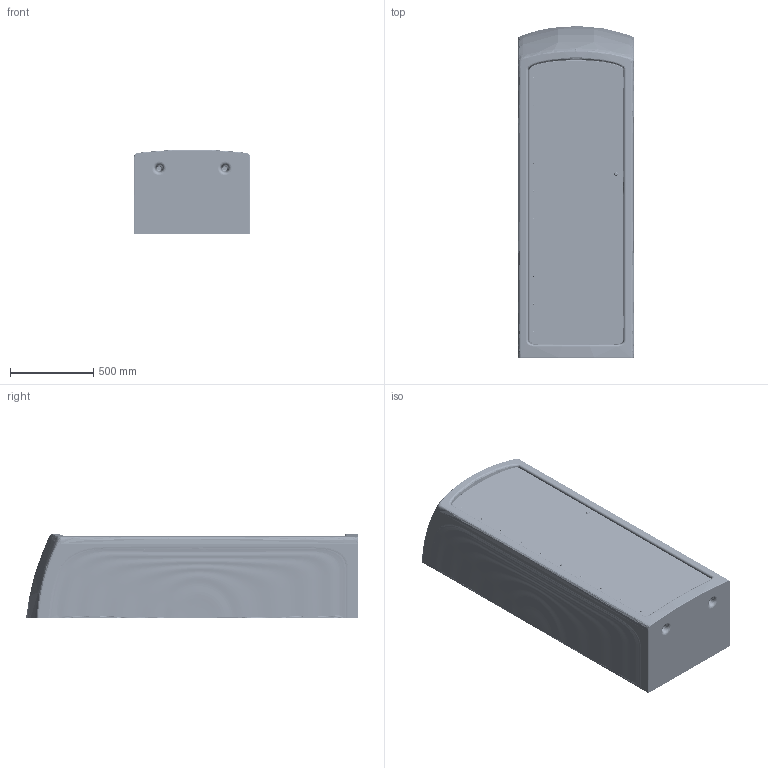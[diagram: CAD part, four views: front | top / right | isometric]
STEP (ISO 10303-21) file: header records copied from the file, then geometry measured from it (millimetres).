
FILE_DESCRIPTION (( 'STEP AP214' ), '1' );
FILE_NAME ('RYNO WARDROBE WITH SGL DOOR.STEP', '2025-04-01T07:23:34', ( '' ), ( '' ), 'SwSTEP 2.0', 'SolidWorks 2024', '' );
FILE_SCHEMA (( 'AUTOMOTIVE_DESIGN' ));
Length unit declared in the file: millimetre
Products named in the file (14): PCPD6474_02 - Full Height Hinge - Part B; Fastenright - M6x12mm Security Torx Barrel; PCPD1448-02_Ryno Large Open Wardrobe & PCPD1450-02_Ryno Large Open Storage - Modular tool_Shelved; IP ONLY - Ryno Wardrobe Door_12mm; Hafele Latch Plate; Fastenright - M6x8mm T30 Security Screw; PCPD6474_02 - Full Height Hinge; Fastenright - M6x25mm T30 Security Screw; PCPD1951_01 - Door Stop Bracket; PCPD6474_02 - Full Height Hinge - Part A; Fastenright - M6 D Insert Nut; RYNO WARDROBE WITH SGL DOOR; Fastenright - No.6x25mm T30 Self Tapping Security Screw; Lowe and Fletcher CAM Lock - 4304_LOCKED
Assembly tree (59 placements, depth 3):
  RYNO WARDROBE WITH SGL DOOR
    PCPD1448-02_Ryno Large Open Wardrobe & PCPD1450-02_Ryno Large Open Storage - Modular tool_Shelved
    PCPD6474_02 - Full Height Hinge
      PCPD6474_02 - Full Height Hinge - Part A
      PCPD6474_02 - Full Height Hinge - Part B
    Hafele Latch Plate
    PCPD1951_01 - Door Stop Bracket  x2
    Lowe and Fletcher CAM Lock - 4304_LOCKED
    Fastenright - M6x12mm Security Torx Barrel  x10
    Fastenright - M6x8mm T30 Security Screw  x10
    Fastenright - M6x25mm T30 Security Screw  x14
    Fastenright - No.6x25mm T30 Self Tapping Security Screw  x2
    Fastenright - M6 D Insert Nut  x14
    IP ONLY - Ryno Wardrobe Door_12mm
Bounding box: 698 x 1999.92 x 510 mm (x, y, z)
Volume: 307360887.9 mm3; surface area: 10538285.3 mm2
Topology: 74 solids, 74 shells, 2710 faces, 6822 edges, 4428 vertices
Faces by surface type: plane 1329, cylinder 817, bspline 381, torus 100, cone 83
Full cylindrical faces by diameter (mm): 0.594 x2, 0.8 x34, 3 x55, 3.5 x2, 4 x2, 6 x1, 7.5 x10, 8 x20, 8.2 x10, 10 x6, 10.5 x24, 12 x10, 22.2 x1
Entity records: 128149 total; most frequent: CARTESIAN_POINT 104103, ORIENTED_EDGE 4870, DIRECTION 4398, EDGE_CURVE 2435, VERTEX_POINT 1670, AXIS2_PLACEMENT_3D 1669, EDGE_LOOP 1497, FACE_OUTER_BOUND 1200
